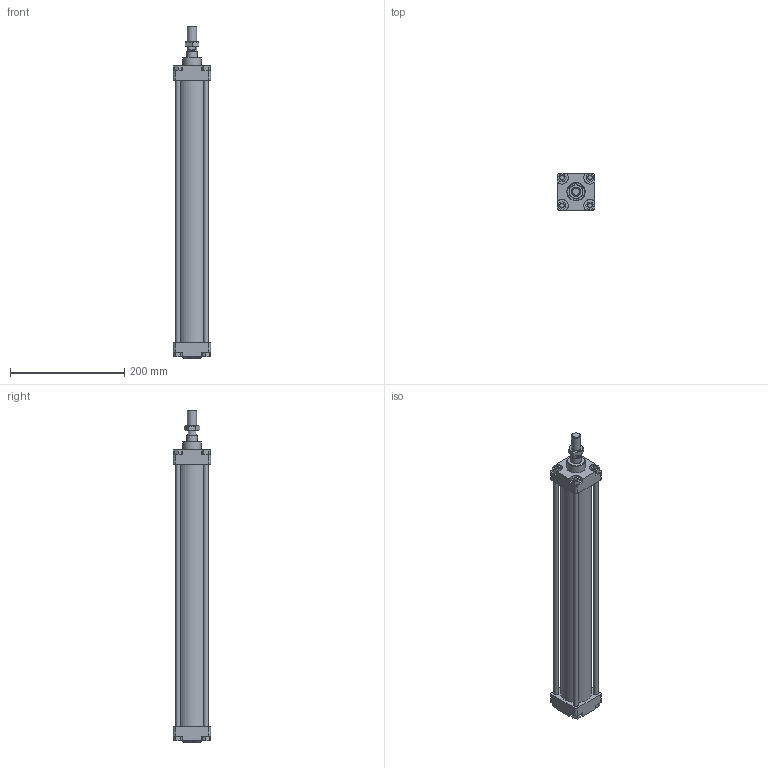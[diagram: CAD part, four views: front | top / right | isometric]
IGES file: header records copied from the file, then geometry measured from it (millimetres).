
Global section: file name: 1303_050_0400_01A; native system: Autodesk Inventor 2014; preprocessor: unknown; author: A. Manieri; date: 20161123.150250; units: millimetre
Bounding box: 65 x 65 x 582 mm (x, y, z)
Volume: 670169.3 mm3; surface area: 283466.4 mm2
Topology: 9 solids, 9 shells, 163 faces, 401 edges, 268 vertices
Faces by surface type: bspline 163
